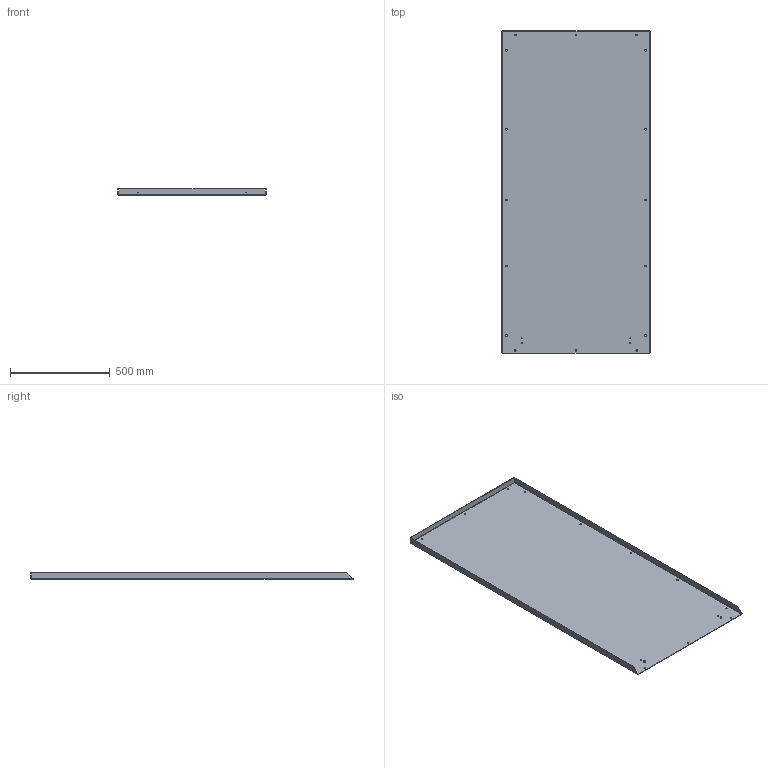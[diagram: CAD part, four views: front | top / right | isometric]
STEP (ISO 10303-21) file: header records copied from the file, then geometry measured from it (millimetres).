
FILE_DESCRIPTION (( 'STEP AP203' ), '1' );
FILE_NAME ('wfhd3rc7236.STEP', '2011-06-14T17:49:12', ( 'Hoffman User' ), ( 'Hoffman Enclosures' ), 'SwSTEP 2.0', 'SolidWorks 2010', '' );
FILE_SCHEMA (( 'CONFIG_CONTROL_DESIGN' ));
Length unit declared in the file: inch
Products named in the file (4): 89049783; 99404049_99404049; 89068144; wfhd3rc7236
Assembly tree (4 placements, depth 3):
  wfhd3rc7236
    89068144
      89049783
      99404049_99404049  x2
Bounding box: 743 x 1617.78 x 33.5 mm (x, y, z)
Volume: 3345027.9 mm3; surface area: 2647545.5 mm2
Topology: 3 solids, 3 shells, 268 faces, 724 edges, 472 vertices
Faces by surface type: plane 154, cylinder 74, cone 30, bspline 6, torus 4
Entity records: 6515 total; most frequent: CARTESIAN_POINT 1422, DIRECTION 969, ORIENTED_EDGE 966, EDGE_CURVE 483, AXIS2_PLACEMENT_3D 347, VERTEX_POINT 312, VECTOR 275, LINE 275
